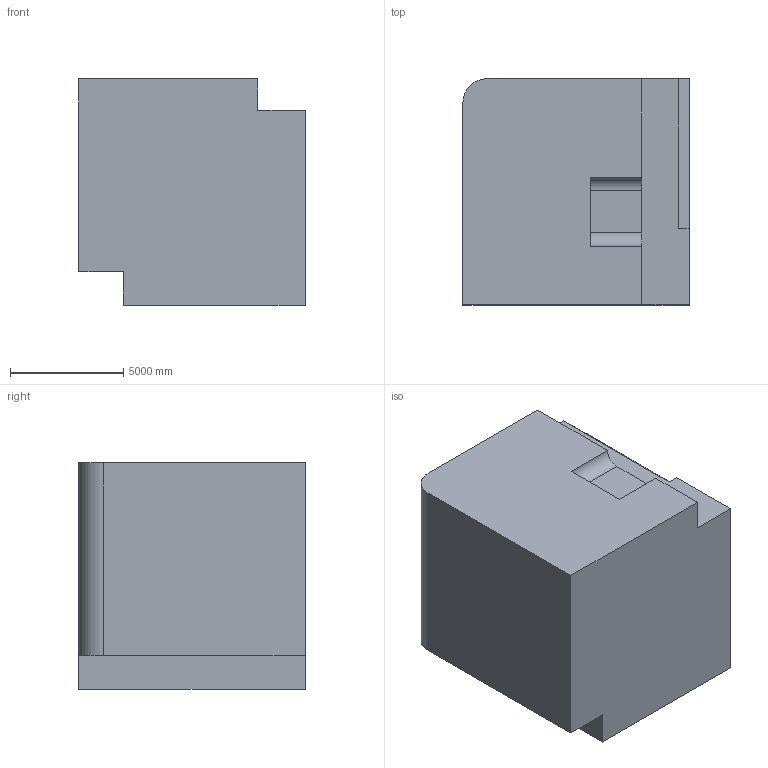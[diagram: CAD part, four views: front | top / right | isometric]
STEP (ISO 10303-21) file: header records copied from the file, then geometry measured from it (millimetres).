
FILE_DESCRIPTION (( 'STEP AP203' ), '1' );
FILE_NAME ('875.STEP', '2022-08-05T16:20:26', ( 'user' ), ( '' ), 'SwSTEP 2.0', 'SolidWorks 2021', '' );
FILE_SCHEMA (( 'CONFIG_CONTROL_DESIGN' ));
Length unit declared in the file: centimetre
Products named in the file (1): 875
Bounding box: 10000 x 10000 x 10000 mm (x, y, z)
Volume: 856347824736.2 mm3; surface area: 724753899.4 mm2
Topology: 1 solids, 1 shells, 35 faces, 90 edges, 60 vertices
Faces by surface type: plane 26, cylinder 9
Entity records: 1139 total; most frequent: CARTESIAN_POINT 186, ORIENTED_EDGE 180, DIRECTION 180, EDGE_CURVE 90, VECTOR 72, LINE 72, VERTEX_POINT 60, AXIS2_PLACEMENT_3D 54
